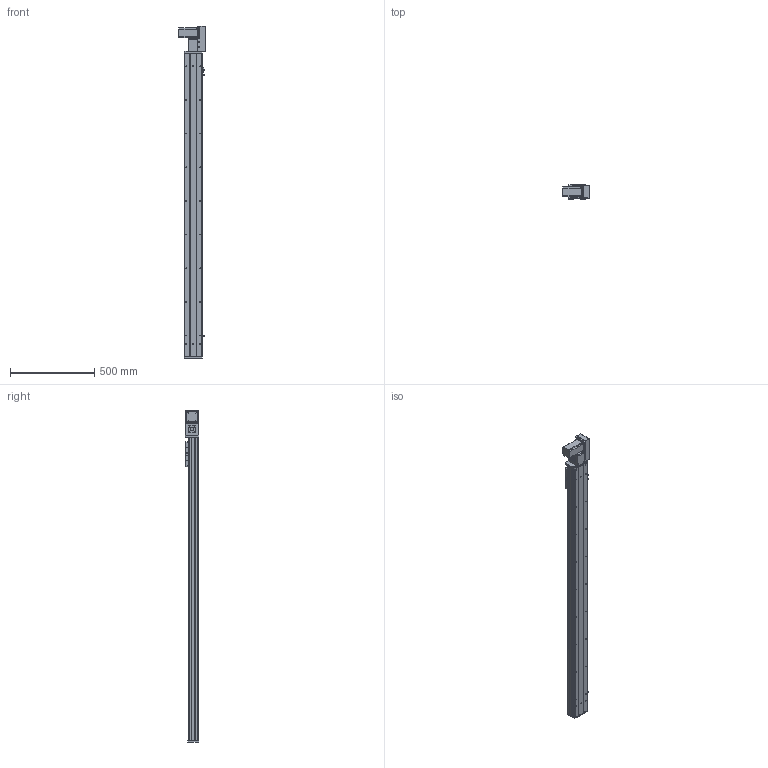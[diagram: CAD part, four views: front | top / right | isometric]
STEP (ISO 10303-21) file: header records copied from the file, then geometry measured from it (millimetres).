
FILE_DESCRIPTION (( 'STEP AP203' ), '1' );
FILE_NAME ('Y10CB-D90-S1550-BR-P400W.STEP', '2020-02-16T02:02:17', ( '微软用户' ), ( '微软中国' ), 'SwSTEP 2.0', 'SolidWorks 2017', '' );
FILE_SCHEMA (( 'CONFIG_CONTROL_DESIGN' ));
Length unit declared in the file: millimetre
Products named in the file (18): Y10B-耜蚾蟀諉啣----; 10CB9-掛极; 0B-萇儂楊擘啣; 10CB-耜裔; san松下电机400不带刹车----; Y135C-陔俋离換覜結え-; 0B-源倛裔啣; Y100-135俋离換覜ん--; 0B-埴倛裔啣; Y10B--々湍喘謫眊--666; Y俋欶BR----; 0CB-雄赽釱---; Y10CB-D90-S1550-BR-P400W; 10CB-詩湍-; 0Cb-俋欶---; Y10CB- 掛极耜裔啣-毀---; Y10B-々湍喘謫眊楊擘啣--; Y10C---詩湍揤啣
Assembly tree (21 placements, depth 2):
  Y10CB-D90-S1550-BR-P400W
    0CB-雄赽釱---
    0Cb-俋欶---
    Y10B-々湍喘謫眊楊擘啣--
    Y10B-耜蚾蟀諉啣----
    0B-萇儂楊擘啣
    san松下电机400不带刹车----
    0B-源倛裔啣
    0B-埴倛裔啣
    Y俋欶BR----
    10CB-詩湍-
    Y10CB- 掛极耜裔啣-毀---  x2
    Y10C---詩湍揤啣  x2
    10CB9-掛极
    10CB-耜裔
    Y135C-陔俋离換覜結え-
    Y100-135俋离換覜ん--  x3
    Y10B--々湍喘謫眊--666
Bounding box: 157.5 x 80.5 x 1972.5 mm (x, y, z)
Volume: 4096360.6 mm3; surface area: 1896945.1 mm2
Topology: 21 solids, 21 shells, 1026 faces, 2763 edges, 1802 vertices
Faces by surface type: cylinder 517, plane 485, cone 24
Entity records: 32404 total; most frequent: CARTESIAN_POINT 5913, DIRECTION 5198, ORIENTED_EDGE 4996, EDGE_CURVE 2498, AXIS2_PLACEMENT_3D 1857, VERTEX_POINT 1628, LINE 1484, VECTOR 1484
